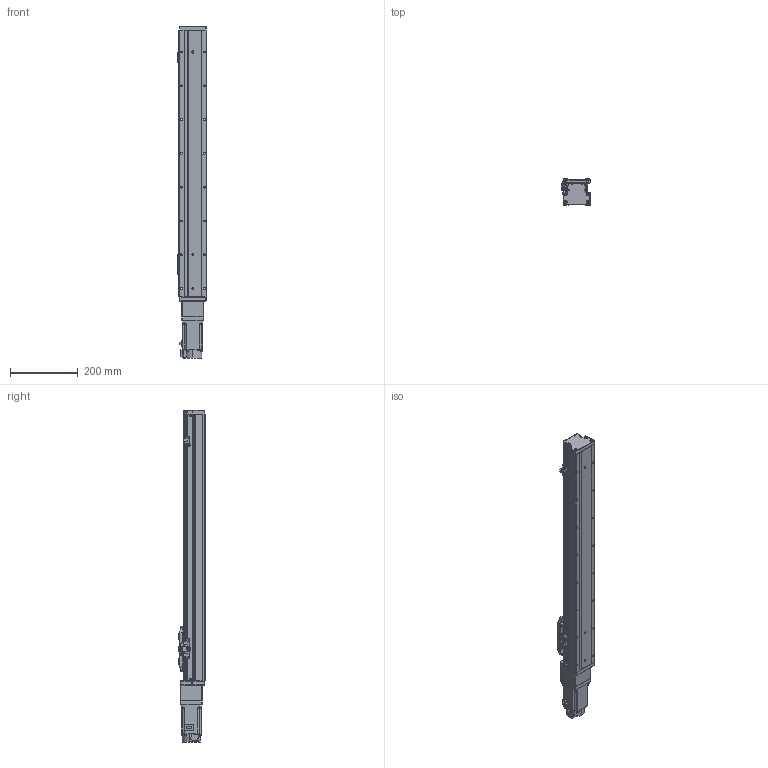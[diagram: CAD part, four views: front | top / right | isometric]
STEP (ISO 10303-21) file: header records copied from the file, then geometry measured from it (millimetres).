
FILE_DESCRIPTION (( 'STEP AP203' ), '1' );
FILE_NAME ('GTH8-600-BC-M20-C4.step', '2022-09-23T00:55:35', ( '微软用户' ), ( '微软中国' ), 'SwSTEP 2.0', 'SolidWorks 2020', '' );
FILE_SCHEMA (( 'CONFIG_CONTROL_DESIGN' ));
Length unit declared in the file: millimetre
Products named in the file (19): GBT 70.1-M3℅6; CTHA86-006-1_CTHA86-006-2; GBT 70.1-M4×16; CTHA86-013; GTH80-004; GTH80-028; CTHA86-027; GTH80-006; GTH50-024; hg-kn43j_-s100_; GTH80-001_600; GTH80-013; GTH50-023; GTH8-600-BC-M20-C4; GTH80-003; GBT 70.3-M3℅6; GBT96.1-2002 3×0.8; GTH80-022; BTH-M3X5X6
Assembly tree (60 placements, depth 2):
  GTH8-600-BC-M20-C4
    GTH80-001_600
    GTH80-003
    GTH80-004
    GTH80-006
    GTH80-013
    GBT 70.3-M3℅6  x6
    GTH80-022
    GBT 70.1-M3℅6  x14
    GBT 70.1-M4×16  x8
    GTH80-028  x2
    GTH50-024  x3
    GTH50-023  x3
    GBT96.1-2002 3×0.8  x6
    BTH-M3X5X6  x8
    CTHA86-006-1_CTHA86-006-2
    CTHA86-013
    CTHA86-027
    hg-kn43j_-s100_
Bounding box: 86.9 x 78 x 982.7 mm (x, y, z)
Volume: 4230108 mm3; surface area: 447728.4 mm2
Topology: 62 solids, 62 shells, 2231 faces, 5128 edges, 3123 vertices
Faces by surface type: plane 1173, cylinder 601, cone 285, torus 162, sphere 8, bspline 2
Entity records: 38816 total; most frequent: CARTESIAN_POINT 6407, DIRECTION 6366, ORIENTED_EDGE 5846, EDGE_CURVE 2923, AXIS2_PLACEMENT_3D 2224, LINE 1918, VECTOR 1918, VERTEX_POINT 1836
